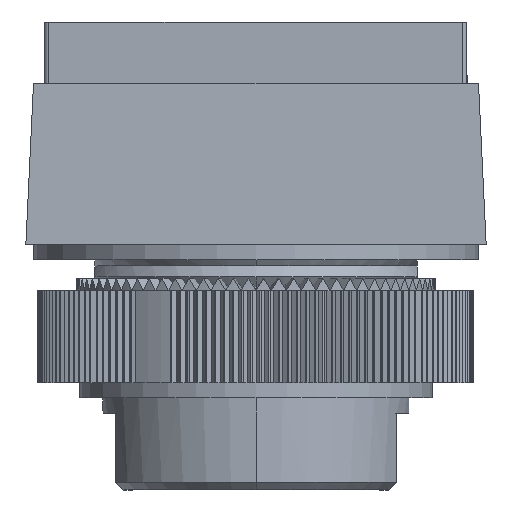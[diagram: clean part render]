
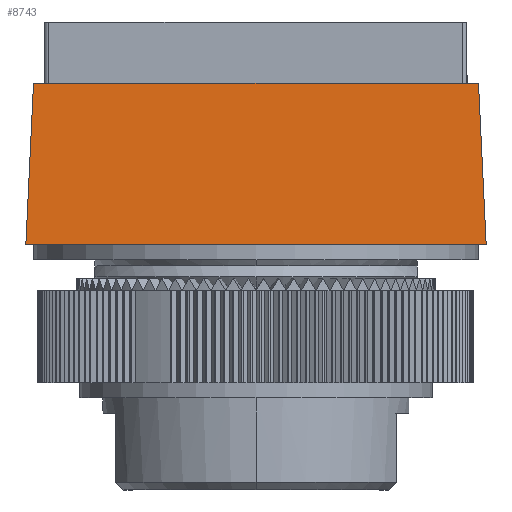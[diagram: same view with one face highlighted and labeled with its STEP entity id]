
A CAD part, front view. The second image highlights one B-rep face of the part: STEP entity #8743.
In plain terms, the highlighted planar face has unit normal (0, -0.999, 0.048).
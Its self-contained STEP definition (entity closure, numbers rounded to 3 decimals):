
#974 = VERTEX_POINT ( 'NONE', #13971 ) ;
#2177 = DIRECTION ( 'NONE',  ( 1., 0., 0. ) ) ;
#3262 = DIRECTION ( 'NONE',  ( -0.048, 0.048, 0.998 ) ) ;
#3680 = CARTESIAN_POINT ( 'NONE',  ( -14.5, -20.5, 10.5 ) ) ;
#4438 = VECTOR ( 'NONE', #21055, 1000. ) ;
#6469 = EDGE_CURVE ( 'NONE', #29632, #19624, #24097, .T. ) ;
#7590 = DIRECTION ( 'NONE',  ( 1., 0., 0. ) ) ;
#7753 = CARTESIAN_POINT ( 'NONE',  ( 15., -20.5, 10.5 ) ) ;
#8139 = ORIENTED_EDGE ( 'NONE', *, *, #9687, .T. ) ;
#8743 = ADVANCED_FACE ( 'NONE', ( #37383 ), #17309, .T. ) ;
#9504 = LINE ( 'NONE', #22313, #15931 ) ;
#9687 = EDGE_CURVE ( 'NONE', #974, #12985, #9504, .T. ) ;
#10466 = ORIENTED_EDGE ( 'NONE', *, *, #30070, .T. ) ;
#12158 = EDGE_CURVE ( 'NONE', #29632, #974, #33115, .T. ) ;
#12985 = VERTEX_POINT ( 'NONE', #32968 ) ;
#13017 = VECTOR ( 'NONE', #2177, 1000. ) ;
#13807 = LINE ( 'NONE', #32874, #24464 ) ;
#13971 = CARTESIAN_POINT ( 'NONE',  ( -15., -21., 0. ) ) ;
#14725 = CARTESIAN_POINT ( 'NONE',  ( -14.454, -20.454, 11.472 ) ) ;
#15931 = VECTOR ( 'NONE', #7590, 1000. ) ;
#17309 = PLANE ( 'NONE',  #20429 ) ;
#18117 = ORIENTED_EDGE ( 'NONE', *, *, #12158, .T. ) ;
#19624 = VERTEX_POINT ( 'NONE', #31560 ) ;
#20288 = DIRECTION ( 'NONE',  ( -1., 0., 0. ) ) ;
#20429 = AXIS2_PLACEMENT_3D ( 'NONE', #20551, #38023, #20288 ) ;
#20551 = CARTESIAN_POINT ( 'NONE',  ( 0., -20.5, 10.5 ) ) ;
#21055 = DIRECTION ( 'NONE',  ( -0.048, -0.048, -0.998 ) ) ;
#21068 = EDGE_LOOP ( 'NONE', ( #18117, #8139, #10466, #22862 ) ) ;
#22313 = CARTESIAN_POINT ( 'NONE',  ( -15., -21., 0. ) ) ;
#22862 = ORIENTED_EDGE ( 'NONE', *, *, #6469, .F. ) ;
#24097 = LINE ( 'NONE', #7753, #13017 ) ;
#24464 = VECTOR ( 'NONE', #3262, 1000. ) ;
#29632 = VERTEX_POINT ( 'NONE', #3680 ) ;
#30070 = EDGE_CURVE ( 'NONE', #12985, #19624, #13807, .T. ) ;
#31560 = CARTESIAN_POINT ( 'NONE',  ( 14.5, -20.5, 10.5 ) ) ;
#32874 = CARTESIAN_POINT ( 'NONE',  ( 14.454, -20.454, 11.472 ) ) ;
#32968 = CARTESIAN_POINT ( 'NONE',  ( 15., -21., 0. ) ) ;
#33115 = LINE ( 'NONE', #14725, #4438 ) ;
#37383 = FACE_OUTER_BOUND ( 'NONE', #21068, .T. ) ;
#38023 = DIRECTION ( 'NONE',  ( 0., -0.999, 0.048 ) ) ;
